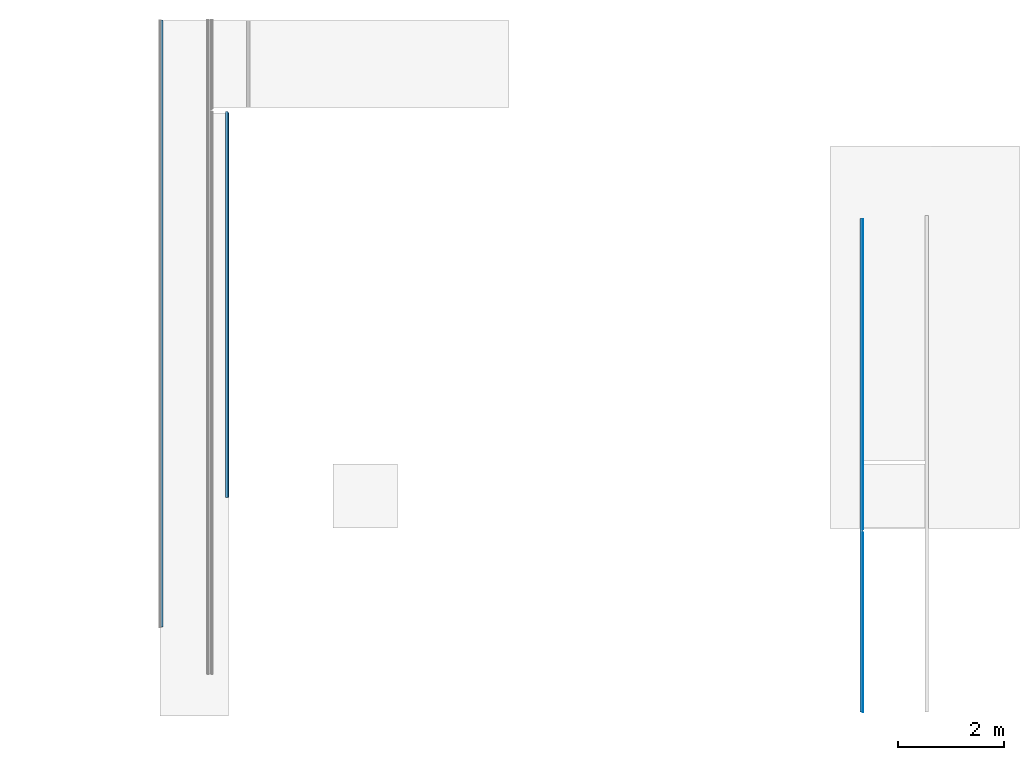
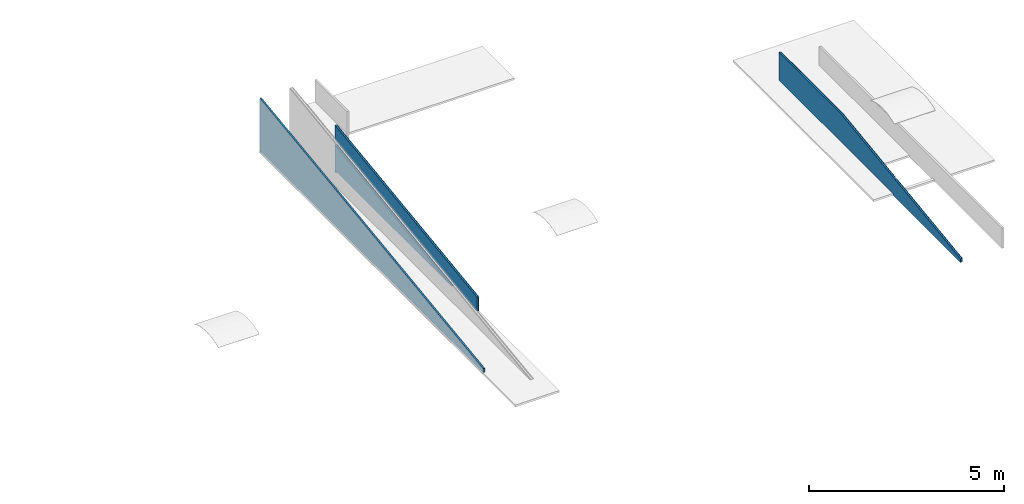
# One storey, part 4 of 4: 5 building element parts, 3 elements without a shape of their own.
"""IFC2X3 building model written with IfcOpenShell, lengths in metres."""

from ifc_helpers import new_model, entity, si_unit, converted_unit, derived_unit, money_unit, direction, frame, origin_with_axes, place, context, subcontext, project, spatial, polyline, outline, extrude, boolean, faceted_brep, material, type_object, element, aggregate, save


model = new_model("IFC2X3")

# Units and contexts
model_context = context("Model", 3, precision=1e-05, world=origin_with_axes(), true_north=direction((0.0, 1.0)))
body_context = subcontext(model_context, "Body", "Model", "MODEL_VIEW")
ifc_project = project(units=[si_unit("LENGTHUNIT", "METRE"), si_unit("AREAUNIT", "SQUARE_METRE"), si_unit("VOLUMEUNIT", "CUBIC_METRE"), converted_unit("PLANEANGLEUNIT", "DEGREE", entity("IfcPlaneAngleMeasure", 0.0174532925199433), si_unit("PLANEANGLEUNIT", "RADIAN"), dimensions=[0, 0, 0, 0, 0, 0, 0]), money_unit("CHF"), converted_unit("TIMEUNIT", "Year", entity("IfcTimeMeasure", 31557600.0), si_unit("TIMEUNIT", "SECOND"), dimensions=[0, 0, 1, 0, 0, 0, 0]), si_unit("MASSUNIT", "GRAM", prefix="KILO"), si_unit("THERMODYNAMICTEMPERATUREUNIT", "DEGREE_CELSIUS"), si_unit("LUMINOUSINTENSITYUNIT", "LUMEN"), si_unit("ENERGYUNIT", "JOULE", prefix="MEGA"), derived_unit("THERMALCONDUCTANCEUNIT", [(si_unit("POWERUNIT", "WATT"), 1), (si_unit("LENGTHUNIT", "METRE"), -1), (si_unit("THERMODYNAMICTEMPERATUREUNIT", "KELVIN"), -1)]), derived_unit("SPECIFICHEATCAPACITYUNIT", [(si_unit("ENERGYUNIT", "JOULE"), 1), (si_unit("MASSUNIT", "GRAM", prefix="KILO"), -1), (si_unit("THERMODYNAMICTEMPERATUREUNIT", "KELVIN"), -1)]), derived_unit("MASSDENSITYUNIT", [(si_unit("MASSUNIT", "GRAM", prefix="KILO"), 1), (si_unit("VOLUMEUNIT", "CUBIC_METRE"), -1)])], contexts=[model_context])

# Site, building, storey
site_placement = place(None, origin_with_axes())
site = spatial("IfcSite", under=ifc_project, at=site_placement, Name="Site", CompositionType="ELEMENT")
building_placement = place(site_placement, origin_with_axes())
building = spatial("IfcBuilding", under=site, at=building_placement, Name="Bâtiment", CompositionType="ELEMENT")
storey_placement = place(building_placement, frame((0.0, 0.0, 4.85), z_axis=(0.0, 0.0, 1.0), x_axis=(1.0, 0.0, 0.0)))
storey = spatial("IfcBuildingStorey", under=building, at=storey_placement, Name="1er étage", CompositionType="ELEMENT", Elevation=4.85)

# Wall, building element parts
wall_type = type_object("IfcWallType", Name="AL - Encoffrement: structure + 1x1 face 61", PredefinedType="ELEMENTEDWALL")
wall_1_placement = place(storey_placement, frame((27.21059745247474, 22.45471930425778, -1.980000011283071), z_axis=(0.0, 0.0, 1.0), x_axis=(3.982285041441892e-07, -0.9999999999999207, 0.0)))
wall_1 = element("IfcWall", 1, at=wall_1_placement, inside=storey, type_object=wall_type, Name="MUR_EXT-018", ObjectType="ELEMENTEDWALL")
ifc_material_1 = material(Name="Finition int - Plaque de plâtre")
building_element_part_1_placement = place(wall_1_placement, origin_with_axes())
building_element_part_1 = element("IfcBuildingElementPart", 2, at=building_element_part_1_placement, material=ifc_material_1, Name="Finition int - Plaque de plâtre", context=body_context, shape_type="CSG", body=[
    boolean("DIFFERENCE", boolean("DIFFERENCE", extrude(outline(polyline([(-2.409282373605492e-08, -0.01250000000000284), (7.348269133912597, -0.01249999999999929), (7.348269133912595, 0.0), (-2.409282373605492e-08, 0.0), (-2.409282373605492e-08, -0.01250000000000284)])), origin_with_axes(), (0.0, 0.0, 1.0), 1.713257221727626), faceted_brep([(7.348269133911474, -0.0003265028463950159, 0.06050000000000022), (7.348269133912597, -0.01249999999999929, 0.06050000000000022), (7.348269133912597, -0.01249999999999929, 0.0), (7.348269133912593, 0.0, 0.0), (7.348269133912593, 0.0, 1.713257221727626), (7.348269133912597, -0.01249999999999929, 1.713257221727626), (7.348269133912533, -0.01249999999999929, 0.5051964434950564), (7.348269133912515, -0.0003265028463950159, 0.5051982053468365), (7.213250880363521, -0.0003264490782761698, 0.06050000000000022), (7.213250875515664, -0.01249999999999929, 0.06050000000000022), (0.09899999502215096, -0.01249999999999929, 1.471757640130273), (-2.409282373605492e-08, -0.01250000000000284, 1.713257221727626), (-2.409282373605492e-08, -0.01250000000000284, 0.0), (0.09899999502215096, -0.01249999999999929, 1.010402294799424), (0.09899999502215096, -0.01249999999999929, 0.8551509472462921), (6.050502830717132, -0.01250000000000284, 0.06050000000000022), (0.09899999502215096, -0.01249999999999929, 0.06050000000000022), (-2.409282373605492e-08, 0.0, 0.0), (-2.409282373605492e-08, 0.0, 1.713257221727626), (0.0990000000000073, -1.641495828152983e-10, 0.8551509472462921), (0.0990000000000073, -3.161702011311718e-10, 0.06050000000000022), (6.050502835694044, -2.370374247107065e-06, 0.06050000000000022), (0.09899999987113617, -0.0003236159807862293, 1.471759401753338), (0.09899999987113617, -0.0003236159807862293, 1.010402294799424)], [[[0, 1, 2, 3, 4, 5, 6, 7]], [[1, 0, 8, 9]], [[10, 6, 5, 11, 12, 2, 1, 9, 13], [14, 15, 16]], [[3, 2, 12, 17]], [[18, 4, 3, 17], [19, 20, 21]], [[4, 18, 11, 5]], [[7, 6, 10, 22]], [[0, 7, 22, 23, 8]], [[8, 23, 13, 9]], [[11, 18, 17, 12]], [[10, 13, 23, 22]], [[14, 19, 21, 15]], [[15, 21, 20, 16]], [[16, 20, 19, 14]]])), faceted_brep([(7.348269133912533, -0.01249999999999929, 0.5051964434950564), (0.09899999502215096, -0.01249999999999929, 1.471757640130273), (0.07399999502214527, -0.01249999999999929, 1.475090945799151), (0.07399999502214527, -0.01249999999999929, 1.013740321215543), (7.213250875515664, -0.01249999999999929, 0.06050000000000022), (7.348269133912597, -0.01249999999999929, 0.06050000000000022), (7.348269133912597, -0.01249999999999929, 0.0), (0.09823059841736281, -0.01250000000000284, 0.0), (0.09823059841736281, -0.01250000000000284, 0.06050000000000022), (6.050502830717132, -0.01250000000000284, 0.06050000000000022), (0.07399999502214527, -0.01249999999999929, 0.8584889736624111), (0.07399999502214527, -0.01249999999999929, 0.0), (-2.409282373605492e-08, -0.01250000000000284, 0.0), (-2.409282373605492e-08, -0.01250000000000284, 1.713257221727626), (7.348269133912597, -0.01249999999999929, 1.713257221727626), (7.348269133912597, -0.06050000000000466, 0.5051894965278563), (0.07399997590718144, -0.06049999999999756, 1.4750840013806), (0.07399997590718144, -0.06049999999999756, 1.013740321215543), (7.2132508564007, -0.06049999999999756, 0.06050000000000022), (7.348269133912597, -0.06050000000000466, 0.06050000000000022), (7.348269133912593, -0.06050000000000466, 0.0), (0.0983248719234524, -0.06049999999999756, 0.0), (0.0983248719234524, -0.06050000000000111, 0.06050000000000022), (6.050502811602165, -0.06050000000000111, 0.06050000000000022), (0.07399997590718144, -0.06049999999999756, 0.8584889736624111), (0.07399997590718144, -0.06049999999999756, 0.0), (-2.409282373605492e-08, -0.06050000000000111, 0.0), (-2.409282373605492e-08, -0.06050000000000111, 1.713257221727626), (7.348269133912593, -0.06050000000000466, 1.713257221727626)], [[[0, 1, 2, 3, 4, 5, 6, 7, 8, 9, 10, 11, 12, 13, 14]], [[2, 1, 0, 15, 16]], [[3, 2, 16, 17]], [[3, 17, 18, 4]], [[19, 5, 4, 18]], [[5, 19, 20, 6]], [[20, 21, 7, 6]], [[22, 8, 7, 21]], [[9, 8, 22, 23]], [[24, 10, 9, 23]], [[25, 11, 10, 24]], [[12, 11, 25, 26]], [[27, 13, 12, 26]], [[14, 13, 27, 28]], [[15, 0, 14, 28]], [[16, 15, 28, 27, 26, 25, 24, 23, 22, 21, 20, 19, 18, 17]]])),
])
ifc_material_2 = material(Name="Cloison - Rail 48")
building_element_part_2_placement = place(wall_1_placement, origin_with_axes())
building_element_part_2 = element("IfcBuildingElementPart", 3, at=building_element_part_2_placement, material=ifc_material_2, Name="Cloison - Rail 48", context=body_context, shape_type="CSG", body=[
    boolean("DIFFERENCE", boolean("DIFFERENCE", extrude(outline(polyline([(-2.409282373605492e-08, -0.06050000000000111), (7.348269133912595, -0.06050000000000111), (7.348269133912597, -0.01249999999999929), (-2.409282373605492e-08, -0.01250000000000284), (-2.409282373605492e-08, -0.06050000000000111)])), origin_with_axes(), (0.0, 0.0, 1.0), 1.713257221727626), faceted_brep([(7.348269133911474, -0.0003265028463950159, 0.06050000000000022), (7.348269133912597, -0.01249999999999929, 0.06050000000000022), (7.348269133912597, -0.01249999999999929, 0.0), (7.348269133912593, 0.0, 0.0), (7.348269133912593, 0.0, 1.713257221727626), (7.348269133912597, -0.01249999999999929, 1.713257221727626), (7.348269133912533, -0.01249999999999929, 0.5051964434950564), (7.348269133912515, -0.0003265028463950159, 0.5051982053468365), (7.213250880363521, -0.0003264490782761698, 0.06050000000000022), (7.213250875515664, -0.01249999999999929, 0.06050000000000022), (0.09899999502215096, -0.01249999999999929, 1.471757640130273), (-2.409282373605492e-08, -0.01250000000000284, 1.713257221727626), (-2.409282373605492e-08, -0.01250000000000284, 0.0), (0.09899999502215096, -0.01249999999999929, 1.010402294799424), (0.09899999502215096, -0.01249999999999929, 0.8551509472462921), (6.050502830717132, -0.01250000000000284, 0.06050000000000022), (0.09899999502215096, -0.01249999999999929, 0.06050000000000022), (-2.409282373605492e-08, 0.0, 0.0), (-2.409282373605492e-08, 0.0, 1.713257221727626), (0.0990000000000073, -1.641495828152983e-10, 0.8551509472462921), (0.0990000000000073, -3.161702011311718e-10, 0.06050000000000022), (6.050502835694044, -2.370374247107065e-06, 0.06050000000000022), (0.09899999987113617, -0.0003236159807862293, 1.471759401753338), (0.09899999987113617, -0.0003236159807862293, 1.010402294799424)], [[[0, 1, 2, 3, 4, 5, 6, 7]], [[1, 0, 8, 9]], [[10, 6, 5, 11, 12, 2, 1, 9, 13], [14, 15, 16]], [[3, 2, 12, 17]], [[18, 4, 3, 17], [19, 20, 21]], [[4, 18, 11, 5]], [[7, 6, 10, 22]], [[0, 7, 22, 23, 8]], [[8, 23, 13, 9]], [[11, 18, 17, 12]], [[10, 13, 23, 22]], [[14, 19, 21, 15]], [[15, 21, 20, 16]], [[16, 20, 19, 14]]])), faceted_brep([(7.348269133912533, -0.01249999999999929, 0.5051964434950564), (0.09899999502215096, -0.01249999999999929, 1.471757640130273), (0.07399999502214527, -0.01249999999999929, 1.475090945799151), (0.07399999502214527, -0.01249999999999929, 1.013740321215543), (7.213250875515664, -0.01249999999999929, 0.06050000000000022), (7.348269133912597, -0.01249999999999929, 0.06050000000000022), (7.348269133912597, -0.01249999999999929, 0.0), (0.09823059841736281, -0.01250000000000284, 0.0), (0.09823059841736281, -0.01250000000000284, 0.06050000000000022), (6.050502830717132, -0.01250000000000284, 0.06050000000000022), (0.07399999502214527, -0.01249999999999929, 0.8584889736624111), (0.07399999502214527, -0.01249999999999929, 0.0), (-2.409282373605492e-08, -0.01250000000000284, 0.0), (-2.409282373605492e-08, -0.01250000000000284, 1.713257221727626), (7.348269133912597, -0.01249999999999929, 1.713257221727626), (7.348269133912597, -0.06050000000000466, 0.5051894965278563), (0.07399997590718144, -0.06049999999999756, 1.4750840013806), (0.07399997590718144, -0.06049999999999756, 1.013740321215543), (7.2132508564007, -0.06049999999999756, 0.06050000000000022), (7.348269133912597, -0.06050000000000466, 0.06050000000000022), (7.348269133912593, -0.06050000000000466, 0.0), (0.0983248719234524, -0.06049999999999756, 0.0), (0.0983248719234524, -0.06050000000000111, 0.06050000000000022), (6.050502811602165, -0.06050000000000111, 0.06050000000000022), (0.07399997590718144, -0.06049999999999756, 0.8584889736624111), (0.07399997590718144, -0.06049999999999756, 0.0), (-2.409282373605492e-08, -0.06050000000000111, 0.0), (-2.409282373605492e-08, -0.06050000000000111, 1.713257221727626), (7.348269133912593, -0.06050000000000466, 1.713257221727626)], [[[0, 1, 2, 3, 4, 5, 6, 7, 8, 9, 10, 11, 12, 13, 14]], [[2, 1, 0, 15, 16]], [[3, 2, 16, 17]], [[3, 17, 18, 4]], [[19, 5, 4, 18]], [[5, 19, 20, 6]], [[20, 21, 7, 6]], [[22, 8, 7, 21]], [[9, 8, 22, 23]], [[24, 10, 9, 23]], [[25, 11, 10, 24]], [[12, 11, 25, 26]], [[27, 13, 12, 26]], [[14, 13, 27, 28]], [[15, 0, 14, 28]], [[16, 15, 28, 27, 26, 25, 24, 23, 22, 21, 20, 19, 18, 17]]])),
])
aggregate(wall_1, [building_element_part_1, building_element_part_2])

# Wall, building element part
wall_2_placement = place(storey_placement, frame((25.91216849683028, 24.09673012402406, -1.980000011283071), z_axis=(0.0, 0.0, 1.0), x_axis=(3.982284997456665e-07, -0.9999999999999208, 0.0)))
wall_2 = element("IfcWall", 4, at=wall_2_placement, inside=storey, type_object=wall_type, Name="MUR_EXT-018", ObjectType="ELEMENTEDWALL")
building_element_part_3_placement = place(wall_2_placement, origin_with_axes())
building_element_part_3 = element("IfcBuildingElementPart", 5, at=building_element_part_3_placement, material=ifc_material_2, Name="Cloison - Rail 48", context=body_context, shape_type="CSG", body=[
    boolean("DIFFERENCE", boolean("DIFFERENCE", boolean("DIFFERENCE", extrude(outline(polyline([(-0.6810000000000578, 0.01249999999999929), (11.4402800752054, 0.01249999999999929), (11.44028007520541, 0.060499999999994), (-0.6810000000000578, 0.060499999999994), (-0.6810000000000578, 0.01249999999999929)])), origin_with_axes(), (0.0, 0.0, 1.0), 1.713257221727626), faceted_brep([(3.243780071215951e-07, 0.01249999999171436, 0.01249999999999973), (11.44028007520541, 0.01250000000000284, 0.01249999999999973), (11.4402800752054, 0.01249999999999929, 0.0), (-0.6810000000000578, 0.01249999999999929, 0.0), (-0.6810000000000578, 0.01249999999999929, 1.713257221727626), (11.4402800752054, 0.01249999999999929, 1.713257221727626), (11.44028007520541, 0.01249999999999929, 0.178348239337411), (6.7715149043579e-09, 0.01249999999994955, 1.703706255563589), (0.0, 0.0, 0.01249999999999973), (11.44028007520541, 0.0, 0.01249999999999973), (11.4402800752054, 0.0, 0.0), (-0.6810000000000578, 0.0, 0.0), (-0.6810000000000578, 0.0, 1.713257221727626), (11.4402800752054, 0.0, 1.713257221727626), (11.44028007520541, 0.0, 0.1783464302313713), (0.0, 0.0, 1.703704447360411)], [[[0, 1, 2, 3, 4, 5, 6, 7]], [[1, 0, 8, 9]], [[1, 9, 10, 2]], [[10, 11, 3, 2]], [[4, 3, 11, 12]], [[4, 12, 13, 5]], [[14, 6, 5, 13]], [[7, 6, 14, 15]], [[7, 15, 8, 0]], [[15, 14, 13, 12, 11, 10, 9, 8]]])), faceted_brep([(1.569989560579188e-06, 0.06049999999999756, 0.06050000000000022), (11.44028007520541, 0.06050000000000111, 0.06050000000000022), (11.44028007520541, 0.060499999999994, 0.0), (1.569989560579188e-06, 0.06049999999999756, 0.0), (3.153636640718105e-07, 0.01249999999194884, 0.06049999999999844), (11.44028007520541, 0.01250000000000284, 0.06050000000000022), (11.4402800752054, 0.01249999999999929, 0.0), (3.243780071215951e-07, 0.01249999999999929, 0.0)], [[[0, 1, 2, 3]], [[1, 0, 4, 5]], [[1, 5, 6, 2]], [[7, 3, 2, 6]], [[0, 3, 7, 4]], [[4, 7, 6, 5]]])), faceted_brep([(-0.01299997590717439, 0.06049999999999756, 1.705446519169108), (-0.01299997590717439, 0.06049999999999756, 0.0), (-0.6810000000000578, 0.060499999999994, 0.0), (-0.6810000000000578, 0.060499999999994, 1.713257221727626), (11.44028007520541, 0.060499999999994, 1.713257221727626), (11.44028007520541, 0.06050000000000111, 0.1783551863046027), (-0.01299999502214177, 0.01249999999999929, 1.705439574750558), (-0.01299999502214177, 0.01249999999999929, 0.0), (-0.6810000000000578, 0.01249999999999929, 0.0), (-0.6810000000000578, 0.01249999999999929, 1.713257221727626), (11.4402800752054, 0.01249999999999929, 1.713257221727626), (11.44028007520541, 0.01249999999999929, 0.178348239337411), (6.7715149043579e-09, 0.01249999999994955, 1.703706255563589)], [[[0, 1, 2, 3, 4, 5]], [[1, 0, 6, 7]], [[1, 7, 8, 2]], [[3, 2, 8, 9]], [[3, 9, 10, 4]], [[11, 5, 4, 10]], [[0, 5, 11, 12, 6]], [[12, 11, 10, 9, 8, 7, 6]]])),
])
aggregate(wall_2, [building_element_part_3])

# Wall, building element parts
wall_3_placement = place(storey_placement, frame((39.12112896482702, 20.42218591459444, -2.129999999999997), z_axis=(0.0, 0.0, 1.0), x_axis=(0.0, -1.0, 0.0)))
wall_3 = element("IfcWall", 6, at=wall_3_placement, inside=storey, type_object=wall_type, Name="MUR_EXT-018", ObjectType="ELEMENTEDWALL")
building_element_part_4_placement = place(wall_3_placement, origin_with_axes())
building_element_part_4 = element("IfcBuildingElementPart", 7, at=building_element_part_4_placement, material=ifc_material_1, Name="Finition int - Plaque de plâtre", context=body_context, shape_type="CSG", body=[
    boolean("DIFFERENCE", boolean("DIFFERENCE", boolean("DIFFERENCE", boolean("DIFFERENCE", extrude(outline(polyline([(-3.843887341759e-08, 0.04799999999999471), (9.365365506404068, 0.04799999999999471), (9.365365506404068, 0.06049999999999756), (-3.843887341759e-08, 0.06049999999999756), (-3.843887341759e-08, 0.04799999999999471)])), origin_with_axes(), (0.0, 0.0, 1.0), 0.9359962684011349), faceted_brep([(5.913371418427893, 0.06049999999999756, 0.0), (5.913371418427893, 0.06049999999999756, 0.5772460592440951), (3.222722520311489, 0.06049999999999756, 0.9359962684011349), (9.365365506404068, 0.06049999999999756, 0.9359962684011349), (9.365365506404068, 0.06049999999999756, 0.1169840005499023), (5.986871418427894, 0.06049999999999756, 0.5674461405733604), (5.986871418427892, 0.06049999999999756, 0.0), (5.913371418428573, 0.04800000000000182, 0.0), (5.913371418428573, 0.04800000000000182, 0.5772442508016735), (3.222708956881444, 0.04799999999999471, 0.9359962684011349), (9.365365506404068, 0.04799999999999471, 0.9359962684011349), (9.365365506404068, 0.04799999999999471, 0.1169821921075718), (5.986871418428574, 0.04800000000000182, 0.5674443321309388), (5.986871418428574, 0.04800000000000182, 0.0)], [[[0, 1, 2, 3, 4, 5, 6]], [[1, 0, 7, 8]], [[9, 2, 1, 8]], [[2, 9, 10, 3]], [[11, 4, 3, 10]], [[5, 4, 11, 12]], [[6, 5, 12, 13]], [[7, 0, 6, 13]], [[8, 7, 13, 12, 11, 10, 9]]])), faceted_brep([(0.07349996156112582, 0.04800000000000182, 0.9359962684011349), (0.07349996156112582, 0.06049999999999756, 0.9359962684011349), (-3.843887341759e-08, 0.06049999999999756, 0.9359962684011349), (-3.843887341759e-08, 0.04799999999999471, 0.9359962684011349), (0.07349996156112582, 0.06049999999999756, 0.060500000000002), (0.07349996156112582, 0.04800000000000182, 0.060500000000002), (5.900371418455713, 0.06049999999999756, 0.060500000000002), (5.900371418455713, 0.06049999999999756, 0.0), (-3.843887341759e-08, 0.06049999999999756, 0.0), (-3.843887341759e-08, 0.04799999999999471, 0.0), (5.900371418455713, 0.04800000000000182, 0.0), (5.900371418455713, 0.04800000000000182, 0.060500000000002)], [[[0, 1, 2, 3]], [[4, 1, 0, 5]], [[6, 7, 8, 2, 1, 4]], [[2, 8, 9, 3]], [[5, 0, 3, 9, 10, 11]], [[6, 4, 5, 11]], [[7, 6, 11, 10]], [[7, 10, 9, 8]]])), faceted_brep([(5.986871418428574, 0.04800000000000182, 0.5674443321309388), (5.913371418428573, 0.04800000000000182, 0.5772442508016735), (3.222708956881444, 0.04799999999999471, 0.9359962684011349), (9.365365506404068, 0.04799999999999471, 0.9359962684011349), (9.365365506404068, 0.04799999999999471, 0.1169821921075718), (3.222656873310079, 0.0, 0.9359962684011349), (9.365365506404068, 0.0, 0.1169752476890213), (9.365365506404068, 0.0, 0.9359962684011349)], [[[0, 1, 2, 3, 4]], [[5, 2, 1, 0, 4, 6]], [[2, 5, 7, 3]], [[6, 4, 3, 7]], [[5, 6, 7]]])), faceted_brep([(0.06099996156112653, 0.0, 0.9359962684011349), (0.06099996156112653, 0.04800000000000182, 0.9359962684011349), (-3.843887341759e-08, 0.04799999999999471, 0.9359962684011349), (-3.843887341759e-08, 0.0, 0.9359962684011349), (0.06099996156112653, 0.04800000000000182, 0.060500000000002), (0.06099996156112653, 0.0, 0.060500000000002), (5.900371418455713, 0.04800000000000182, 0.060500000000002), (5.900371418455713, 0.04800000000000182, 0.0), (-3.843887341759e-08, 0.04799999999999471, 0.0), (-3.843887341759e-08, 0.0, 0.0), (5.900371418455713, 0.0, 0.0), (5.900371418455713, 0.0, 0.060500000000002)], [[[0, 1, 2, 3]], [[4, 1, 0, 5]], [[6, 7, 8, 2, 1, 4]], [[2, 8, 9, 3]], [[5, 0, 3, 9, 10, 11]], [[4, 5, 11, 6]], [[10, 7, 6, 11]], [[7, 10, 9, 8]]])),
])
building_element_part_5_placement = place(wall_3_placement, origin_with_axes())
building_element_part_5 = element("IfcBuildingElementPart", 8, at=building_element_part_5_placement, material=ifc_material_2, Name="Cloison - Rail 48", context=body_context, shape_type="CSG", body=[
    boolean("DIFFERENCE", boolean("DIFFERENCE", boolean("DIFFERENCE", boolean("DIFFERENCE", extrude(outline(polyline([(-3.843887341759e-08, 0.0), (9.365365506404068, 0.0), (9.365365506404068, 0.04799999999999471), (-3.843887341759e-08, 0.04799999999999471), (-3.843887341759e-08, 0.0)])), origin_with_axes(), (0.0, 0.0, 1.0), 0.9359962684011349), faceted_brep([(5.913371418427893, 0.06049999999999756, 0.0), (5.913371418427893, 0.06049999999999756, 0.5772460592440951), (3.222722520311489, 0.06049999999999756, 0.9359962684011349), (9.365365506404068, 0.06049999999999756, 0.9359962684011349), (9.365365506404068, 0.06049999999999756, 0.1169840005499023), (5.986871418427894, 0.06049999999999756, 0.5674461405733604), (5.986871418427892, 0.06049999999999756, 0.0), (5.913371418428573, 0.04800000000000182, 0.0), (5.913371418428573, 0.04800000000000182, 0.5772442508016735), (3.222708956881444, 0.04799999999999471, 0.9359962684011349), (9.365365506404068, 0.04799999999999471, 0.9359962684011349), (9.365365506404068, 0.04799999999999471, 0.1169821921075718), (5.986871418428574, 0.04800000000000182, 0.5674443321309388), (5.986871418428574, 0.04800000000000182, 0.0)], [[[0, 1, 2, 3, 4, 5, 6]], [[1, 0, 7, 8]], [[9, 2, 1, 8]], [[2, 9, 10, 3]], [[11, 4, 3, 10]], [[5, 4, 11, 12]], [[6, 5, 12, 13]], [[7, 0, 6, 13]], [[8, 7, 13, 12, 11, 10, 9]]])), faceted_brep([(0.07349996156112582, 0.04800000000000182, 0.9359962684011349), (0.07349996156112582, 0.06049999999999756, 0.9359962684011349), (-3.843887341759e-08, 0.06049999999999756, 0.9359962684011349), (-3.843887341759e-08, 0.04799999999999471, 0.9359962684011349), (0.07349996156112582, 0.06049999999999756, 0.060500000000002), (0.07349996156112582, 0.04800000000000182, 0.060500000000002), (5.900371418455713, 0.06049999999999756, 0.060500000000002), (5.900371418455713, 0.06049999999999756, 0.0), (-3.843887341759e-08, 0.06049999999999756, 0.0), (-3.843887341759e-08, 0.04799999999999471, 0.0), (5.900371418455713, 0.04800000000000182, 0.0), (5.900371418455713, 0.04800000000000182, 0.060500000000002)], [[[0, 1, 2, 3]], [[4, 1, 0, 5]], [[6, 7, 8, 2, 1, 4]], [[2, 8, 9, 3]], [[5, 0, 3, 9, 10, 11]], [[6, 4, 5, 11]], [[7, 6, 11, 10]], [[7, 10, 9, 8]]])), faceted_brep([(5.986871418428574, 0.04800000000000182, 0.5674443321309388), (5.913371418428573, 0.04800000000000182, 0.5772442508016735), (3.222708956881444, 0.04799999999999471, 0.9359962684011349), (9.365365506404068, 0.04799999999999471, 0.9359962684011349), (9.365365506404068, 0.04799999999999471, 0.1169821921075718), (3.222656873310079, 0.0, 0.9359962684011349), (9.365365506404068, 0.0, 0.1169752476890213), (9.365365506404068, 0.0, 0.9359962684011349)], [[[0, 1, 2, 3, 4]], [[5, 2, 1, 0, 4, 6]], [[2, 5, 7, 3]], [[6, 4, 3, 7]], [[5, 6, 7]]])), faceted_brep([(0.06099996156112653, 0.0, 0.9359962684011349), (0.06099996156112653, 0.04800000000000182, 0.9359962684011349), (-3.843887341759e-08, 0.04799999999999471, 0.9359962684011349), (-3.843887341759e-08, 0.0, 0.9359962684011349), (0.06099996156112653, 0.04800000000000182, 0.060500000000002), (0.06099996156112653, 0.0, 0.060500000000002), (5.900371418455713, 0.04800000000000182, 0.060500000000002), (5.900371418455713, 0.04800000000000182, 0.0), (-3.843887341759e-08, 0.04799999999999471, 0.0), (-3.843887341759e-08, 0.0, 0.0), (5.900371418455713, 0.0, 0.0), (5.900371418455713, 0.0, 0.060500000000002)], [[[0, 1, 2, 3]], [[4, 1, 0, 5]], [[6, 7, 8, 2, 1, 4]], [[2, 8, 9, 3]], [[5, 0, 3, 9, 10, 11]], [[4, 5, 11, 6]], [[10, 7, 6, 11]], [[7, 10, 9, 8]]])),
])
aggregate(wall_3, [building_element_part_4, building_element_part_5])

save(model, "model.ifc")
